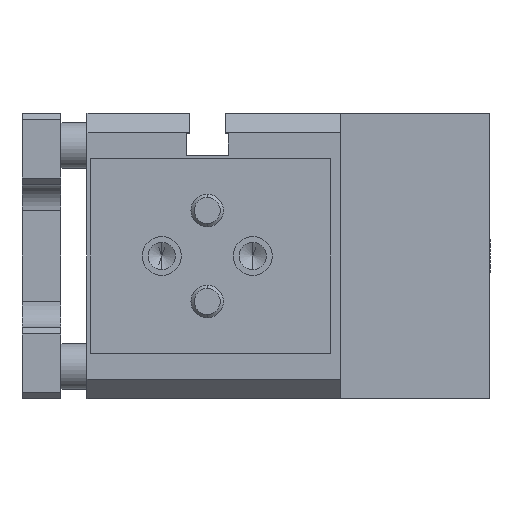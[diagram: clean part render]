
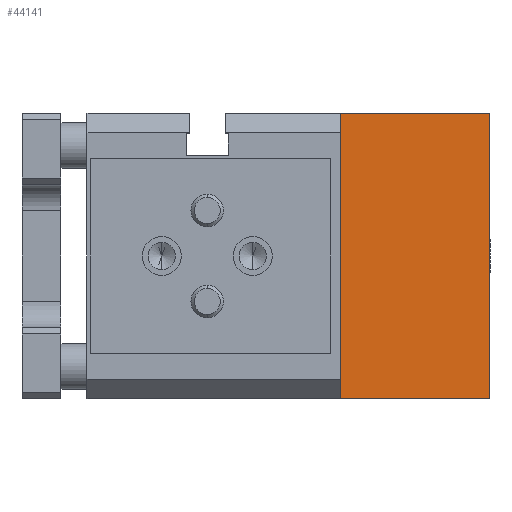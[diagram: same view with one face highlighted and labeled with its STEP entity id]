
A CAD part, left-side view. The second image highlights one B-rep face of the part: STEP entity #44141.
In plain terms, the highlighted planar face has unit normal (-1, 0, 0).
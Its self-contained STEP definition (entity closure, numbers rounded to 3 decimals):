
#732 = CARTESIAN_POINT ( 'NONE',  ( -32., 23., 22. ) ) ;
#2249 = DIRECTION ( 'NONE',  ( 1., 0., 0. ) ) ;
#3508 = EDGE_CURVE ( 'NONE', #35830, #10871, #32266, .T. ) ;
#3597 = LINE ( 'NONE', #37025, #32715 ) ;
#4506 = EDGE_LOOP ( 'NONE', ( #39809, #17144, #7680, #11134 ) ) ;
#7680 = ORIENTED_EDGE ( 'NONE', *, *, #7754, .T. ) ;
#7754 = EDGE_CURVE ( 'NONE', #35830, #19860, #48458, .T. ) ;
#9233 = AXIS2_PLACEMENT_3D ( 'NONE', #24997, #2249, #28795 ) ;
#10871 = VERTEX_POINT ( 'NONE', #25410 ) ;
#10928 = CARTESIAN_POINT ( 'NONE',  ( -32., 23., 22. ) ) ;
#11134 = ORIENTED_EDGE ( 'NONE', *, *, #46017, .T. ) ;
#11666 = CARTESIAN_POINT ( 'NONE',  ( -32., 23., -22. ) ) ;
#13533 = PLANE ( 'NONE',  #9233 ) ;
#14833 = FACE_OUTER_BOUND ( 'NONE', #4506, .T. ) ;
#17144 = ORIENTED_EDGE ( 'NONE', *, *, #3508, .F. ) ;
#18107 = DIRECTION ( 'NONE',  ( 0., 0., 1. ) ) ;
#19860 = VERTEX_POINT ( 'NONE', #11666 ) ;
#24997 = CARTESIAN_POINT ( 'NONE',  ( -32., 23., 22. ) ) ;
#25344 = DIRECTION ( 'NONE',  ( 0., -1., 0. ) ) ;
#25410 = CARTESIAN_POINT ( 'NONE',  ( -32., 0., 22. ) ) ;
#25931 = VECTOR ( 'NONE', #48915, 1000. ) ;
#27462 = CARTESIAN_POINT ( 'NONE',  ( -32., 0., -22. ) ) ;
#28795 = DIRECTION ( 'NONE',  ( 0., 0., -1. ) ) ;
#32250 = CARTESIAN_POINT ( 'NONE',  ( -32., 0., -22. ) ) ;
#32266 = LINE ( 'NONE', #48014, #43507 ) ;
#32715 = VECTOR ( 'NONE', #18107, 1000. ) ;
#35830 = VERTEX_POINT ( 'NONE', #732 ) ;
#36036 = DIRECTION ( 'NONE',  ( 0., -1., 0. ) ) ;
#37025 = CARTESIAN_POINT ( 'NONE',  ( -32., 0., 22. ) ) ;
#38482 = VECTOR ( 'NONE', #36036, 1000. ) ;
#39809 = ORIENTED_EDGE ( 'NONE', *, *, #43324, .T. ) ;
#40867 = LINE ( 'NONE', #32250, #38482 ) ;
#41484 = VERTEX_POINT ( 'NONE', #27462 ) ;
#43324 = EDGE_CURVE ( 'NONE', #41484, #10871, #3597, .T. ) ;
#43507 = VECTOR ( 'NONE', #25344, 1000. ) ;
#44141 = ADVANCED_FACE ( 'NONE', ( #14833 ), #13533, .F. ) ;
#46017 = EDGE_CURVE ( 'NONE', #19860, #41484, #40867, .T. ) ;
#48014 = CARTESIAN_POINT ( 'NONE',  ( -32., 23., 22. ) ) ;
#48458 = LINE ( 'NONE', #10928, #25931 ) ;
#48915 = DIRECTION ( 'NONE',  ( 0., 0., -1. ) ) ;
